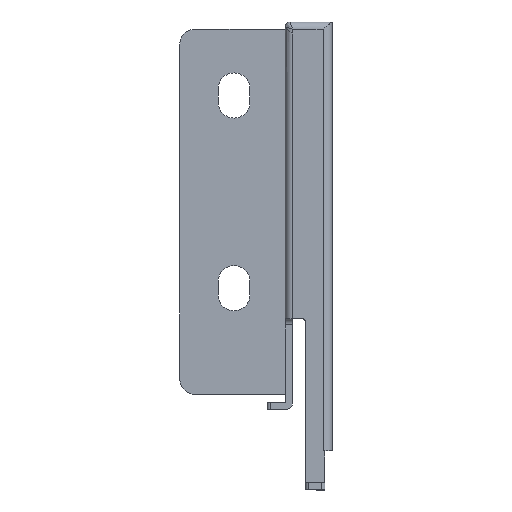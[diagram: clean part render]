
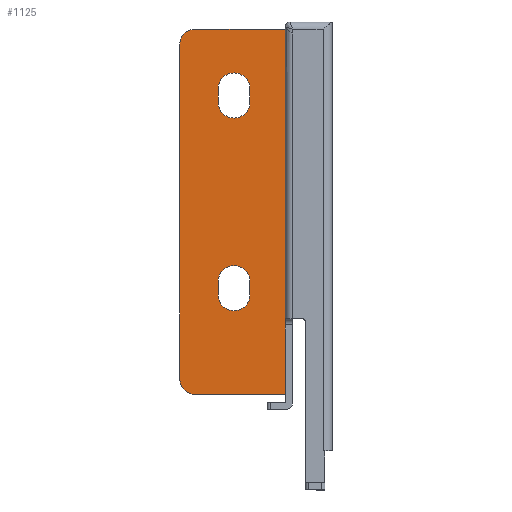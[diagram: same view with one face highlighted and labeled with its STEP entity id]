
A CAD part, left-side view. The second image highlights one B-rep face of the part: STEP entity #1125.
In plain terms, the highlighted planar face has unit normal (-1, 0, 0).
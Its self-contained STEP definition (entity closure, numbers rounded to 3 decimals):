
#28 = VECTOR ( 'NONE', #1754, 1000. ) ;
#49 = LINE ( 'NONE', #1715, #28 ) ;
#103 = VECTOR ( 'NONE', #288, 1000. ) ;
#108 = LINE ( 'NONE', #178, #103 ) ;
#178 = CARTESIAN_POINT ( 'NONE',  ( 14.1, 2.8, 67.26 ) ) ;
#288 = DIRECTION ( 'NONE',  ( 0., 1., 0. ) ) ;
#409 = VERTEX_POINT ( 'NONE', #1215 ) ;
#410 = AXIS2_PLACEMENT_3D ( 'NONE', #1540, #1537, #1536 ) ;
#413 = AXIS2_PLACEMENT_3D ( 'NONE', #1506, #1518, #1557 ) ;
#416 = AXIS2_PLACEMENT_3D ( 'NONE', #1589, #1581, #1578 ) ;
#417 = AXIS2_PLACEMENT_3D ( 'NONE', #1625, #1621, #1620 ) ;
#418 = AXIS2_PLACEMENT_3D ( 'NONE', #1680, #1666, #1662 ) ;
#421 = AXIS2_PLACEMENT_3D ( 'NONE', #704, #577, #546 ) ;
#467 = AXIS2_PLACEMENT_3D ( 'NONE', #1368, #1346, #1004 ) ;
#546 = DIRECTION ( 'NONE',  ( 0., -1., 0. ) ) ;
#564 = PLANE ( 'NONE',  #421 ) ;
#577 = DIRECTION ( 'NONE',  ( 1., 0., 0. ) ) ;
#627 = ORIENTED_EDGE ( 'NONE', *, *, #1091, .F. ) ;
#628 = ORIENTED_EDGE ( 'NONE', *, *, #797, .T. ) ;
#630 = ORIENTED_EDGE ( 'NONE', *, *, #1879, .F. ) ;
#631 = ORIENTED_EDGE ( 'NONE', *, *, #866, .F. ) ;
#632 = VERTEX_POINT ( 'NONE', #1797 ) ;
#637 = ORIENTED_EDGE ( 'NONE', *, *, #1176, .F. ) ;
#640 = VERTEX_POINT ( 'NONE', #902 ) ;
#642 = ORIENTED_EDGE ( 'NONE', *, *, #1172, .F. ) ;
#646 = ORIENTED_EDGE ( 'NONE', *, *, #1169, .T. ) ;
#650 = ORIENTED_EDGE ( 'NONE', *, *, #1161, .T. ) ;
#653 = ORIENTED_EDGE ( 'NONE', *, *, #1158, .T. ) ;
#654 = ORIENTED_EDGE ( 'NONE', *, *, #1156, .T. ) ;
#658 = ORIENTED_EDGE ( 'NONE', *, *, #1154, .T. ) ;
#660 = ORIENTED_EDGE ( 'NONE', *, *, #1151, .T. ) ;
#661 = ORIENTED_EDGE ( 'NONE', *, *, #1148, .T. ) ;
#662 = ORIENTED_EDGE ( 'NONE', *, *, #1144, .T. ) ;
#704 = CARTESIAN_POINT ( 'NONE',  ( 14.1, 1.5, 189.61 ) ) ;
#797 = EDGE_CURVE ( 'NONE', #632, #640, #108, .T. ) ;
#863 = CARTESIAN_POINT ( 'NONE',  ( 14.1, 13.85, 25.36 ) ) ;
#866 = EDGE_CURVE ( 'NONE', #409, #1199, #49, .T. ) ;
#902 = CARTESIAN_POINT ( 'NONE',  ( 14.1, 17.7, 67.26 ) ) ;
#1004 = DIRECTION ( 'NONE',  ( 0., -1., 0. ) ) ;
#1055 = VERTEX_POINT ( 'NONE', #1940 ) ;
#1066 = VERTEX_POINT ( 'NONE', #1925 ) ;
#1091 = EDGE_CURVE ( 'NONE', #1753, #640, #1861, .T. ) ;
#1117 = VERTEX_POINT ( 'NONE', #863 ) ;
#1125 = ADVANCED_FACE ( 'NONE', ( #1824, #1853, #1826 ), #564, .F. ) ;
#1144 = EDGE_CURVE ( 'NONE', #1398, #1305, #1818, .T. ) ;
#1148 = EDGE_CURVE ( 'NONE', #1305, #1066, #1814, .T. ) ;
#1151 = EDGE_CURVE ( 'NONE', #1066, #1233, #1802, .T. ) ;
#1154 = EDGE_CURVE ( 'NONE', #1233, #1398, #1803, .T. ) ;
#1156 = EDGE_CURVE ( 'NONE', #1173, #1117, #1795, .T. ) ;
#1158 = EDGE_CURVE ( 'NONE', #1117, #1220, #1798, .T. ) ;
#1159 = EDGE_LOOP ( 'NONE', ( #662, #661, #660, #658 ) ) ;
#1161 = EDGE_CURVE ( 'NONE', #1220, #1055, #1790, .T. ) ;
#1166 = EDGE_LOOP ( 'NONE', ( #654, #653, #650, #646 ) ) ;
#1169 = EDGE_CURVE ( 'NONE', #1055, #1173, #1822, .T. ) ;
#1172 = EDGE_CURVE ( 'NONE', #1180, #1753, #1784, .T. ) ;
#1173 = VERTEX_POINT ( 'NONE', #1560 ) ;
#1176 = EDGE_CURVE ( 'NONE', #1199, #1180, #1806, .T. ) ;
#1180 = VERTEX_POINT ( 'NONE', #1534 ) ;
#1199 = VERTEX_POINT ( 'NONE', #1511 ) ;
#1215 = CARTESIAN_POINT ( 'NONE',  ( 14.1, 2.7, 6.66 ) ) ;
#1220 = VERTEX_POINT ( 'NONE', #1421 ) ;
#1233 = VERTEX_POINT ( 'NONE', #1392 ) ;
#1305 = VERTEX_POINT ( 'NONE', #1554 ) ;
#1346 = DIRECTION ( 'NONE',  ( 1., 0., 0. ) ) ;
#1367 = EDGE_LOOP ( 'NONE', ( #642, #637, #631, #630, #628, #627 ) ) ;
#1368 = CARTESIAN_POINT ( 'NONE',  ( 14.1, 17.7, 64.76 ) ) ;
#1392 = CARTESIAN_POINT ( 'NONE',  ( 14.1, 8.55, 55.16 ) ) ;
#1398 = VERTEX_POINT ( 'NONE', #1696 ) ;
#1421 = CARTESIAN_POINT ( 'NONE',  ( 14.1, 8.55, 25.36 ) ) ;
#1497 = CARTESIAN_POINT ( 'NONE',  ( 14.1, 20.2, 189.9 ) ) ;
#1506 = CARTESIAN_POINT ( 'NONE',  ( 14.1, 11.2, 23.16 ) ) ;
#1511 = CARTESIAN_POINT ( 'NONE',  ( 14.1, 17.7, 6.66 ) ) ;
#1518 = DIRECTION ( 'NONE',  ( 1., 0., 0. ) ) ;
#1534 = CARTESIAN_POINT ( 'NONE',  ( 14.1, 20.2, 9.16 ) ) ;
#1536 = DIRECTION ( 'NONE',  ( 0., -1., 0. ) ) ;
#1537 = DIRECTION ( 'NONE',  ( 1., 0., 0. ) ) ;
#1540 = CARTESIAN_POINT ( 'NONE',  ( 14.1, 17.7, 9.16 ) ) ;
#1553 = DIRECTION ( 'NONE',  ( 0., 0., 1. ) ) ;
#1554 = CARTESIAN_POINT ( 'NONE',  ( 14.1, 13.85, 57.36 ) ) ;
#1557 = DIRECTION ( 'NONE',  ( 0., 1., 0. ) ) ;
#1560 = CARTESIAN_POINT ( 'NONE',  ( 14.1, 13.85, 23.16 ) ) ;
#1568 = DIRECTION ( 'NONE',  ( 0., 0., -1. ) ) ;
#1578 = DIRECTION ( 'NONE',  ( 0., 1., 0. ) ) ;
#1581 = DIRECTION ( 'NONE',  ( 1., 0., 0. ) ) ;
#1589 = CARTESIAN_POINT ( 'NONE',  ( 14.1, 11.2, 25.36 ) ) ;
#1617 = DIRECTION ( 'NONE',  ( 0., 0., 1. ) ) ;
#1619 = CARTESIAN_POINT ( 'NONE',  ( 14.1, 8.55, 189.61 ) ) ;
#1620 = DIRECTION ( 'NONE',  ( 0., 1., 0. ) ) ;
#1621 = DIRECTION ( 'NONE',  ( 1., 0., 0. ) ) ;
#1624 = CARTESIAN_POINT ( 'NONE',  ( 14.1, 20.2, 64.76 ) ) ;
#1625 = CARTESIAN_POINT ( 'NONE',  ( 14.1, 11.2, 55.16 ) ) ;
#1642 = CARTESIAN_POINT ( 'NONE',  ( 14.1, 13.85, 189.61 ) ) ;
#1647 = VECTOR ( 'NONE', #1928, 1000. ) ;
#1652 = LINE ( 'NONE', #1934, #1647 ) ;
#1657 = DIRECTION ( 'NONE',  ( 0., 0., -1. ) ) ;
#1662 = DIRECTION ( 'NONE',  ( 0., 1., 0. ) ) ;
#1666 = DIRECTION ( 'NONE',  ( 1., 0., 0. ) ) ;
#1680 = CARTESIAN_POINT ( 'NONE',  ( 14.1, 11.2, 57.36 ) ) ;
#1696 = CARTESIAN_POINT ( 'NONE',  ( 14.1, 13.85, 55.16 ) ) ;
#1702 = CARTESIAN_POINT ( 'NONE',  ( 14.1, 8.55, 189.61 ) ) ;
#1715 = CARTESIAN_POINT ( 'NONE',  ( 14.1, 2.8, 6.66 ) ) ;
#1721 = DIRECTION ( 'NONE',  ( 0., 0., 1. ) ) ;
#1753 = VERTEX_POINT ( 'NONE', #1624 ) ;
#1754 = DIRECTION ( 'NONE',  ( 0., 1., 0. ) ) ;
#1782 = VECTOR ( 'NONE', #1553, 1000. ) ;
#1784 = LINE ( 'NONE', #1497, #1782 ) ;
#1787 = VECTOR ( 'NONE', #1568, 1000. ) ;
#1790 = LINE ( 'NONE', #1619, #1787 ) ;
#1792 = VECTOR ( 'NONE', #1617, 1000. ) ;
#1795 = LINE ( 'NONE', #1642, #1792 ) ;
#1797 = CARTESIAN_POINT ( 'NONE',  ( 14.1, 2.7, 67.26 ) ) ;
#1798 = CIRCLE ( 'NONE', #416, 2.65 ) ;
#1800 = CARTESIAN_POINT ( 'NONE',  ( 14.1, 13.85, 189.61 ) ) ;
#1801 = VECTOR ( 'NONE', #1657, 1000. ) ;
#1802 = LINE ( 'NONE', #1702, #1801 ) ;
#1803 = CIRCLE ( 'NONE', #417, 2.65 ) ;
#1804 = VECTOR ( 'NONE', #1721, 1000. ) ;
#1806 = CIRCLE ( 'NONE', #410, 2.5 ) ;
#1814 = CIRCLE ( 'NONE', #418, 2.65 ) ;
#1818 = LINE ( 'NONE', #1800, #1804 ) ;
#1822 = CIRCLE ( 'NONE', #413, 2.65 ) ;
#1824 = FACE_BOUND ( 'NONE', #1159, .T. ) ;
#1826 = FACE_OUTER_BOUND ( 'NONE', #1367, .T. ) ;
#1853 = FACE_BOUND ( 'NONE', #1166, .T. ) ;
#1861 = CIRCLE ( 'NONE', #467, 2.5 ) ;
#1879 = EDGE_CURVE ( 'NONE', #632, #409, #1652, .T. ) ;
#1925 = CARTESIAN_POINT ( 'NONE',  ( 14.1, 8.55, 57.36 ) ) ;
#1928 = DIRECTION ( 'NONE',  ( 0., 0., -1. ) ) ;
#1934 = CARTESIAN_POINT ( 'NONE',  ( 14.1, 2.7, 189.9 ) ) ;
#1940 = CARTESIAN_POINT ( 'NONE',  ( 14.1, 8.55, 23.16 ) ) ;
